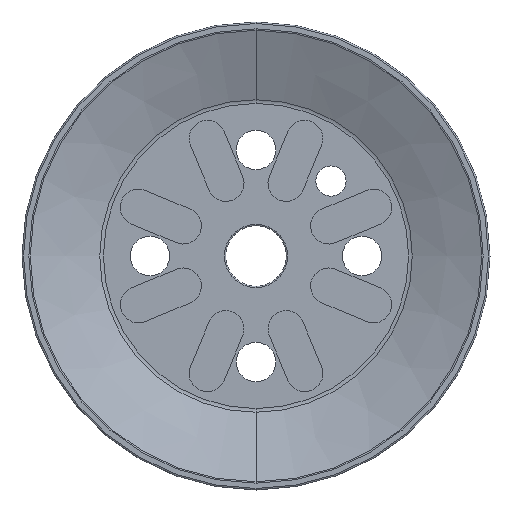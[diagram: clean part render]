
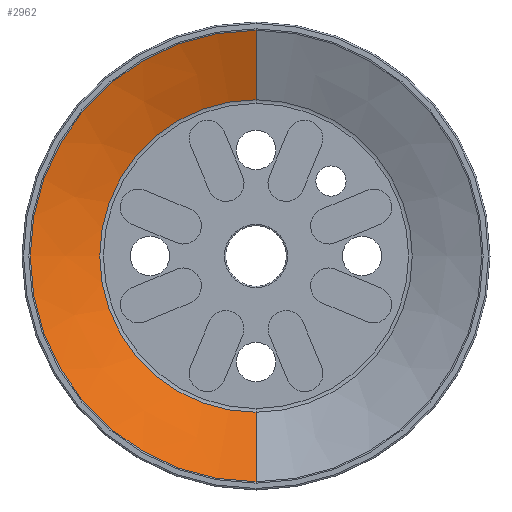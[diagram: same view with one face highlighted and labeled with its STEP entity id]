
A CAD part, front view. The second image highlights one B-rep face of the part: STEP entity #2962.
In plain terms, the highlighted conical face has half-angle 67.168 degrees and reference radius 25.788 mm.
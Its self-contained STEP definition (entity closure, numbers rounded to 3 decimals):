
#6 = ORIENTED_EDGE ( 'NONE', *, *, #2912, .F. ) ;
#43 = CARTESIAN_POINT ( 'NONE',  ( 0., -8.121, -25.788 ) ) ;
#72 = CARTESIAN_POINT ( 'NONE',  ( 0., -12.953, 0. ) ) ;
#83 = DIRECTION ( 'NONE',  ( 0., 1., 0. ) ) ;
#112 = EDGE_CURVE ( 'NONE', #2093, #1313, #2461, .T. ) ;
#191 = EDGE_CURVE ( 'NONE', #1313, #1687, #2161, .T. ) ;
#238 = CARTESIAN_POINT ( 'NONE',  ( 0., -12.953, 37.264 ) ) ;
#428 = DIRECTION ( 'NONE',  ( 0., -1., 0. ) ) ;
#624 = DIRECTION ( 'NONE',  ( 0., 0., 1. ) ) ;
#858 = ORIENTED_EDGE ( 'NONE', *, *, #191, .T. ) ;
#886 = CARTESIAN_POINT ( 'NONE',  ( 0., -8.121, 25.788 ) ) ;
#1143 = DIRECTION ( 'NONE',  ( 0., 0., -1. ) ) ;
#1222 = VECTOR ( 'NONE', #2034, 1000. ) ;
#1313 = VERTEX_POINT ( 'NONE', #2624 ) ;
#1365 = CARTESIAN_POINT ( 'NONE',  ( 0., -8.121, 0. ) ) ;
#1512 = EDGE_CURVE ( 'NONE', #2093, #3096, #2005, .T. ) ;
#1687 = VERTEX_POINT ( 'NONE', #238 ) ;
#1790 = CARTESIAN_POINT ( 'NONE',  ( 0., -8.121, -25.788 ) ) ;
#1830 = ORIENTED_EDGE ( 'NONE', *, *, #1512, .F. ) ;
#1876 = CARTESIAN_POINT ( 'NONE',  ( 0., -12.953, -37.264 ) ) ;
#2005 = LINE ( 'NONE', #1790, #1222 ) ;
#2034 = DIRECTION ( 'NONE',  ( 0., -0.388, -0.922 ) ) ;
#2067 = VECTOR ( 'NONE', #2428, 1000. ) ;
#2093 = VERTEX_POINT ( 'NONE', #43 ) ;
#2130 = DIRECTION ( 'NONE',  ( 0., 0., 1. ) ) ;
#2161 = LINE ( 'NONE', #886, #2067 ) ;
#2273 = CIRCLE ( 'NONE', #2550, 37.264 ) ;
#2350 = CONICAL_SURFACE ( 'NONE', #2977, 25.788, 1.172 ) ;
#2362 = ORIENTED_EDGE ( 'NONE', *, *, #112, .T. ) ;
#2428 = DIRECTION ( 'NONE',  ( 0., -0.388, 0.922 ) ) ;
#2461 = CIRCLE ( 'NONE', #3222, 25.788 ) ;
#2550 = AXIS2_PLACEMENT_3D ( 'NONE', #72, #83, #624 ) ;
#2624 = CARTESIAN_POINT ( 'NONE',  ( 0., -8.121, 25.788 ) ) ;
#2682 = DIRECTION ( 'NONE',  ( 0., 1., 0. ) ) ;
#2697 = FACE_OUTER_BOUND ( 'NONE', #2993, .T. ) ;
#2912 = EDGE_CURVE ( 'NONE', #3096, #1687, #2273, .T. ) ;
#2962 = ADVANCED_FACE ( 'NONE', ( #2697 ), #2350, .F. ) ;
#2977 = AXIS2_PLACEMENT_3D ( 'NONE', #3346, #428, #1143 ) ;
#2993 = EDGE_LOOP ( 'NONE', ( #2362, #858, #6, #1830 ) ) ;
#3096 = VERTEX_POINT ( 'NONE', #1876 ) ;
#3222 = AXIS2_PLACEMENT_3D ( 'NONE', #1365, #2682, #2130 ) ;
#3346 = CARTESIAN_POINT ( 'NONE',  ( 0., -8.121, 0. ) ) ;
